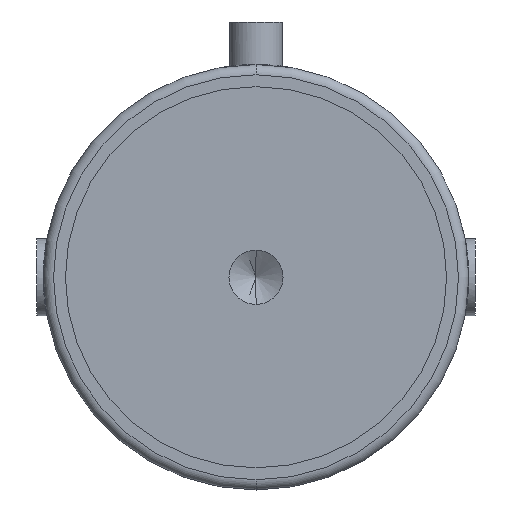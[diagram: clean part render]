
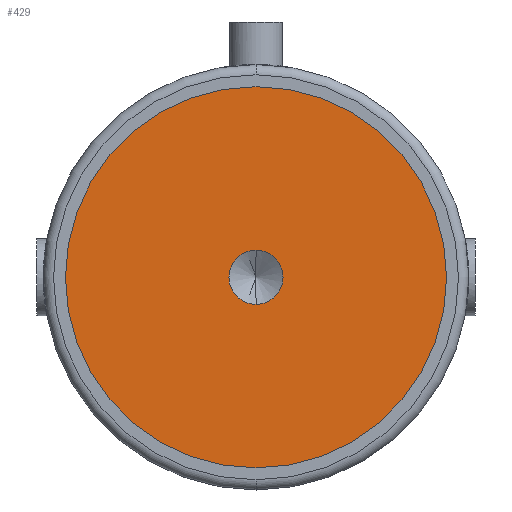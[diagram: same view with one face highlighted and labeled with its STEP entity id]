
A CAD part, front view. The second image highlights one B-rep face of the part: STEP entity #429.
In plain terms, the highlighted planar face has unit normal (0, -1, 0).
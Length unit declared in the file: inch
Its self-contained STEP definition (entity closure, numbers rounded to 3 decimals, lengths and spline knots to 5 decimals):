
#16 = VERTEX_POINT ( 'NONE', #35 ) ;
#18 = VERTEX_POINT ( 'NONE', #46 ) ;
#30 = VERTEX_POINT ( 'NONE', #1111 ) ;
#35 = CARTESIAN_POINT ( 'NONE',  ( 0., -0.05, 0.56 ) ) ;
#46 = CARTESIAN_POINT ( 'NONE',  ( 0., -0.05, 0.0795 ) ) ;
#53 = VERTEX_POINT ( 'NONE', #1100 ) ;
#74 = EDGE_CURVE ( 'NONE', #18, #53, #588, .T. ) ;
#99 = EDGE_CURVE ( 'NONE', #30, #16, #1070, .T. ) ;
#107 = EDGE_CURVE ( 'NONE', #16, #30, #1084, .T. ) ;
#112 = AXIS2_PLACEMENT_3D ( 'NONE', #912, #917, #936 ) ;
#124 = AXIS2_PLACEMENT_3D ( 'NONE', #957, #953, #954 ) ;
#139 = AXIS2_PLACEMENT_3D ( 'NONE', #935, #909, #903 ) ;
#150 = EDGE_CURVE ( 'NONE', #53, #18, #985, .T. ) ;
#177 = AXIS2_PLACEMENT_3D ( 'NONE', #510, #496, #498 ) ;
#211 = AXIS2_PLACEMENT_3D ( 'NONE', #333, #352, #334 ) ;
#333 = CARTESIAN_POINT ( 'NONE',  ( 0., -0.05, 0. ) ) ;
#334 = DIRECTION ( 'NONE',  ( 0., 0., -1. ) ) ;
#352 = DIRECTION ( 'NONE',  ( 0., -1., 0. ) ) ;
#429 = ADVANCED_FACE ( 'NONE', ( #1007, #1008 ), #497, .T. ) ;
#496 = DIRECTION ( 'NONE',  ( 0., -1., 0. ) ) ;
#497 = PLANE ( 'NONE',  #177 ) ;
#498 = DIRECTION ( 'NONE',  ( 0., 0., -1. ) ) ;
#510 = CARTESIAN_POINT ( 'NONE',  ( 0., -0.05, 0. ) ) ;
#588 = CIRCLE ( 'NONE', #124, 0.0795 ) ;
#611 = ORIENTED_EDGE ( 'NONE', *, *, #107, .T. ) ;
#619 = ORIENTED_EDGE ( 'NONE', *, *, #74, .F. ) ;
#623 = ORIENTED_EDGE ( 'NONE', *, *, #150, .F. ) ;
#631 = ORIENTED_EDGE ( 'NONE', *, *, #99, .T. ) ;
#768 = EDGE_LOOP ( 'NONE', ( #611, #631 ) ) ;
#780 = EDGE_LOOP ( 'NONE', ( #623, #619 ) ) ;
#903 = DIRECTION ( 'NONE',  ( 0., 0., -1. ) ) ;
#909 = DIRECTION ( 'NONE',  ( 0., -1., 0. ) ) ;
#912 = CARTESIAN_POINT ( 'NONE',  ( 0., -0.05, 0. ) ) ;
#917 = DIRECTION ( 'NONE',  ( 0., -1., 0. ) ) ;
#935 = CARTESIAN_POINT ( 'NONE',  ( 0., -0.05, 0. ) ) ;
#936 = DIRECTION ( 'NONE',  ( 0., 0., -1. ) ) ;
#953 = DIRECTION ( 'NONE',  ( 0., -1., 0. ) ) ;
#954 = DIRECTION ( 'NONE',  ( 0., 0., -1. ) ) ;
#957 = CARTESIAN_POINT ( 'NONE',  ( 0., -0.05, 0. ) ) ;
#985 = CIRCLE ( 'NONE', #211, 0.0795 ) ;
#1007 = FACE_BOUND ( 'NONE', #780, .T. ) ;
#1008 = FACE_OUTER_BOUND ( 'NONE', #768, .T. ) ;
#1070 = CIRCLE ( 'NONE', #139, 0.56 ) ;
#1084 = CIRCLE ( 'NONE', #112, 0.56 ) ;
#1100 = CARTESIAN_POINT ( 'NONE',  ( 0., -0.05, -0.0795 ) ) ;
#1111 = CARTESIAN_POINT ( 'NONE',  ( 0., -0.05, -0.56 ) ) ;
